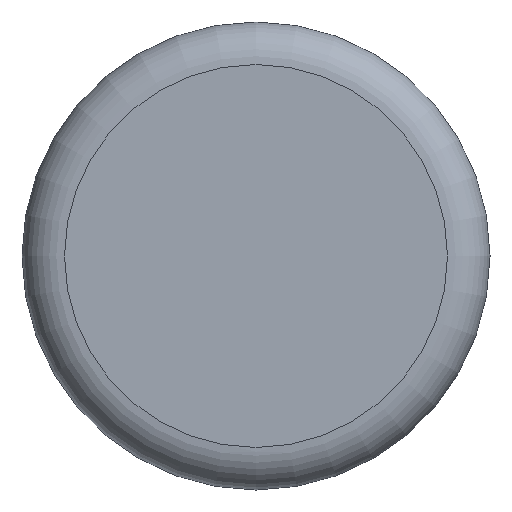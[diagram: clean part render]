
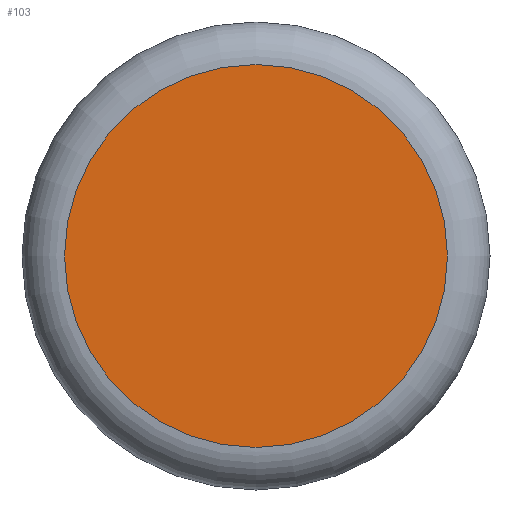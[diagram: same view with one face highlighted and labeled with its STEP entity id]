
A CAD part, front view. The second image highlights one B-rep face of the part: STEP entity #103.
In plain terms, the highlighted planar face has unit normal (0, -1, 0).
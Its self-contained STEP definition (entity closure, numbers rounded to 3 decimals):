
#103=ADVANCED_FACE('',(#184),#186,.T.);
#184=FACE_BOUND('',#185,.T.);
#185=EDGE_LOOP('',(#226));
#186=PLANE('',#187);
#187=AXIS2_PLACEMENT_3D('',#188,#189,#190);
#188=CARTESIAN_POINT('',(0.,-0.3,0.));
#189=DIRECTION('',(0.,-1.,0.));
#190=DIRECTION('',(0.,0.,-1.));
#226=ORIENTED_EDGE('',*,*,#238,.T.);
#238=EDGE_CURVE('',#252,#252,#253,.T.);
#252=VERTEX_POINT('',#286);
#253=CIRCLE('',#287,0.45);
#286=CARTESIAN_POINT('',(0.,-0.3,-0.45));
#287=AXIS2_PLACEMENT_3D('',#288,#289,#290);
#288=CARTESIAN_POINT('',(0.,-0.3,0.));
#289=DIRECTION('',(0.,-1.,0.));
#290=DIRECTION('',(0.,0.,-1.));
